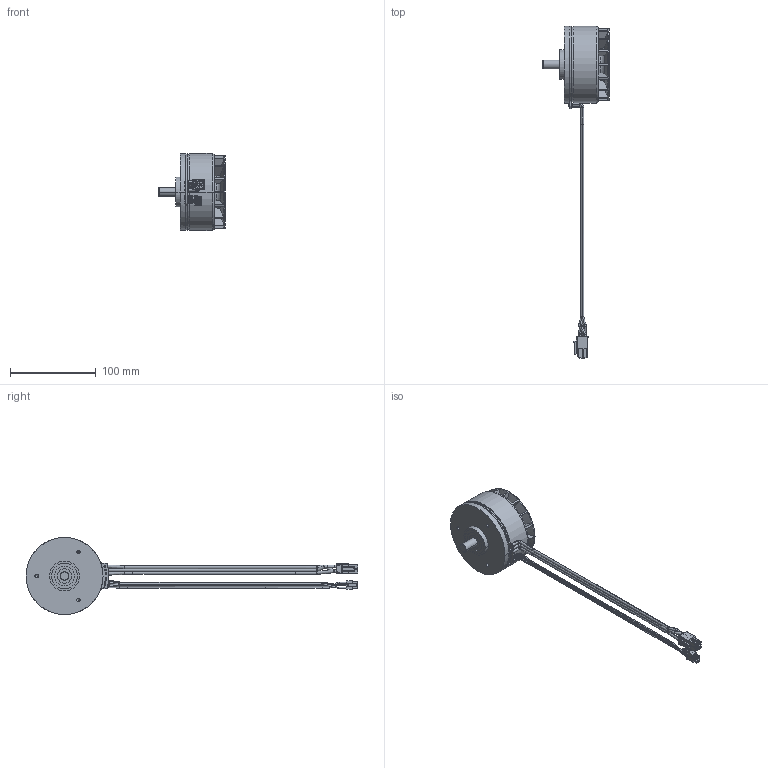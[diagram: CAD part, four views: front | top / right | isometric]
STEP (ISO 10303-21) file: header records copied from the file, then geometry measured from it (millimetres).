
FILE_DESCRIPTION((''),'2;1');
FILE_NAME('4558917','2019-02-25T',('mmagvisi'),(''),'CREO PARAMETRIC BY PTC INC, 2017300','CREO PARAMETRIC BY PTC INC, 2017300','');
FILE_SCHEMA(('CONFIG_CONTROL_DESIGN'));
Length unit declared in the file: millimetre
Products named in the file (1): 4558917
Bounding box: 77.3 x 388 x 90 mm (x, y, z)
Volume: 282825.5 mm3; surface area: 59590.9 mm2
Topology: 5 solids, 5 shells, 784 faces, 2001 edges, 1251 vertices
Faces by surface type: plane 450, cylinder 215, torus 91, cone 28
Entity records: 31103 total; most frequent: CARTESIAN_POINT 4667, DIRECTION 4084, ORIENTED_EDGE 3990, PRESENTATION_STYLE_ASSIGNMENT 2139, STYLED_ITEM 2000, CURVE_STYLE 1995, EDGE_CURVE 1995, AXIS2_PLACEMENT_3D 1363
